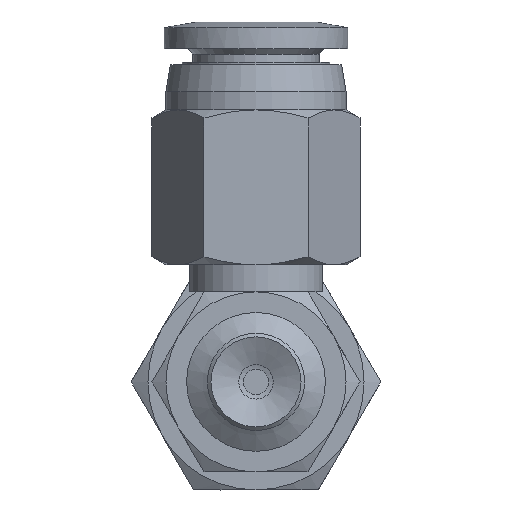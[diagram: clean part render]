
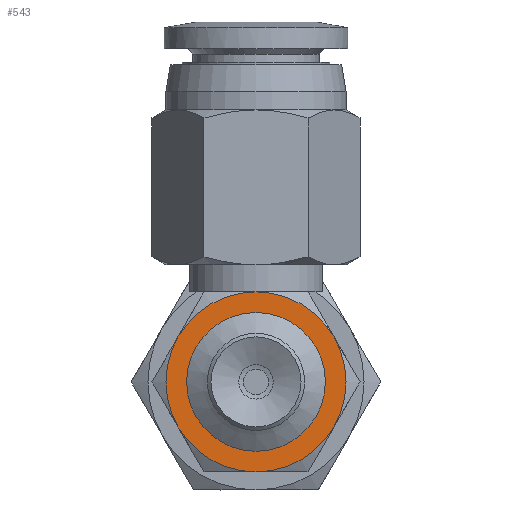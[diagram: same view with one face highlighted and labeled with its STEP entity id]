
A CAD part, front view. The second image highlights one B-rep face of the part: STEP entity #543.
In plain terms, the highlighted planar face has unit normal (0, -1, 0).
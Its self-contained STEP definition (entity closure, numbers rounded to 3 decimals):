
#543=ADVANCED_FACE('',(#826,#827),#828,.T.);
#826=FACE_BOUND('',#1234,.T.);
#827=FACE_OUTER_BOUND('',#1235,.T.);
#828=PLANE('',#1236);
#1234=EDGE_LOOP('',(#2279));
#1235=EDGE_LOOP('',(#2280,#2281,#2282,#2283,#2284,#2285));
#1236=AXIS2_PLACEMENT_3D('',#2286,#2287,#2288);
#2279=ORIENTED_EDGE('',*,*,#2920,.F.);
#2280=ORIENTED_EDGE('',*,*,#2893,.T.);
#2281=ORIENTED_EDGE('',*,*,#2892,.T.);
#2282=ORIENTED_EDGE('',*,*,#2851,.T.);
#2283=ORIENTED_EDGE('',*,*,#2895,.T.);
#2284=ORIENTED_EDGE('',*,*,#2881,.T.);
#2285=ORIENTED_EDGE('',*,*,#2864,.T.);
#2286=CARTESIAN_POINT('',(2.0,0.,0.0));
#2287=DIRECTION('',(0.0,-1.0,0.0));
#2288=DIRECTION('',(0.0,0.0,-1.0));
#2851=EDGE_CURVE('',#3200,#3211,#3213,.T.);
#2864=EDGE_CURVE('',#3236,#3233,#3237,.T.);
#2881=EDGE_CURVE('',#3265,#3236,#3266,.T.);
#2892=EDGE_CURVE('',#3224,#3200,#3284,.T.);
#2893=EDGE_CURVE('',#3233,#3224,#3285,.T.);
#2895=EDGE_CURVE('',#3211,#3265,#3287,.T.);
#2920=EDGE_CURVE('',#3329,#3329,#3330,.T.);
#3200=VERTEX_POINT('',#3982);
#3211=VERTEX_POINT('',#4003);
#3213=CIRCLE('',#4007,5.0);
#3224=VERTEX_POINT('',#4025);
#3233=VERTEX_POINT('',#4043);
#3236=VERTEX_POINT('',#4048);
#3237=CIRCLE('',#4049,5.0);
#3265=VERTEX_POINT('',#4098);
#3266=CIRCLE('',#4099,5.0);
#3284=CIRCLE('',#4120,5.0);
#3285=CIRCLE('',#4121,5.0);
#3287=CIRCLE('',#4125,5.0);
#3329=VERTEX_POINT('',#4236);
#3330=CIRCLE('',#4237,2.0);
#3982=CARTESIAN_POINT('',(4.33,0.0,2.5));
#4003=CARTESIAN_POINT('',(0.0,0.0,5.0));
#4007=AXIS2_PLACEMENT_3D('',#4908,#4909,#4910);
#4025=CARTESIAN_POINT('',(4.33,0.0,-2.5));
#4043=CARTESIAN_POINT('',(0.0,0.0,-5.0));
#4048=CARTESIAN_POINT('',(-4.33,0.0,-2.5));
#4049=AXIS2_PLACEMENT_3D('',#4919,#4920,#4921);
#4098=CARTESIAN_POINT('',(-4.33,0.,2.5));
#4099=AXIS2_PLACEMENT_3D('',#4935,#4936,#4937);
#4120=AXIS2_PLACEMENT_3D('',#4963,#4964,#4965);
#4121=AXIS2_PLACEMENT_3D('',#4966,#4967,#4968);
#4125=AXIS2_PLACEMENT_3D('',#4969,#4970,#4971);
#4236=CARTESIAN_POINT('',(0.0,0.,-2.0));
#4237=AXIS2_PLACEMENT_3D('',#5010,#5011,#5012);
#4908=CARTESIAN_POINT('',(0.0,0.,0.0));
#4909=DIRECTION('',(0.0,-1.0,0.0));
#4910=DIRECTION('',(0.0,0.0,-1.0));
#4919=CARTESIAN_POINT('',(0.0,0.,0.0));
#4920=DIRECTION('',(0.0,-1.0,0.0));
#4921=DIRECTION('',(0.0,0.0,-1.0));
#4935=CARTESIAN_POINT('',(0.0,0.,0.0));
#4936=DIRECTION('',(0.0,-1.0,0.0));
#4937=DIRECTION('',(0.0,0.0,-1.0));
#4963=CARTESIAN_POINT('',(0.0,0.,0.0));
#4964=DIRECTION('',(0.0,-1.0,0.0));
#4965=DIRECTION('',(0.0,0.0,-1.0));
#4966=CARTESIAN_POINT('',(0.0,0.,0.0));
#4967=DIRECTION('',(0.0,-1.0,0.0));
#4968=DIRECTION('',(0.0,0.0,-1.0));
#4969=CARTESIAN_POINT('',(0.0,0.,0.0));
#4970=DIRECTION('',(0.0,-1.0,0.0));
#4971=DIRECTION('',(0.0,0.0,-1.0));
#5010=CARTESIAN_POINT('',(0.0,0.,0.0));
#5011=DIRECTION('',(0.0,-1.0,0.0));
#5012=DIRECTION('',(0.0,0.0,-1.0));
